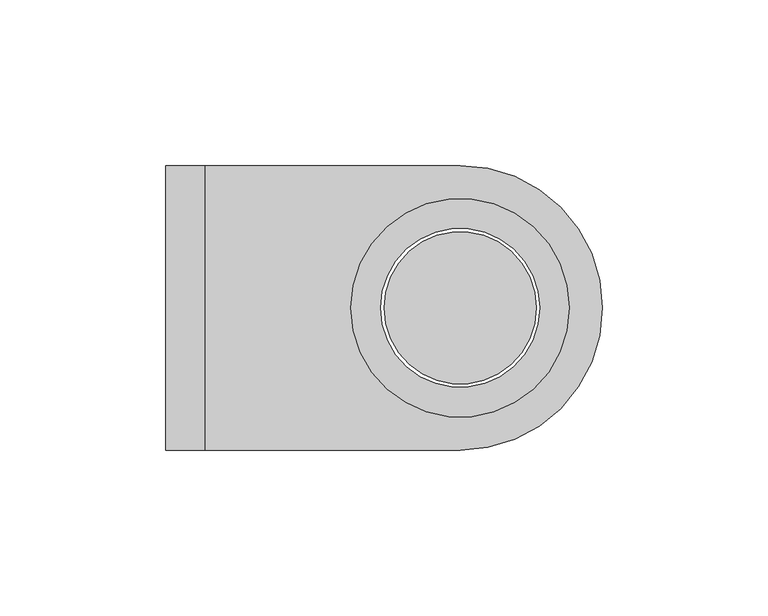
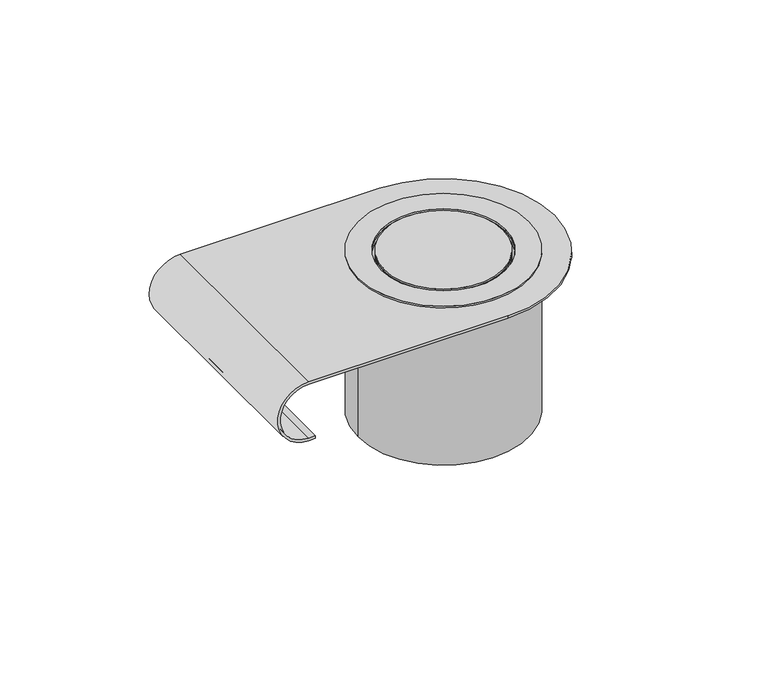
"""IFC4 building model written with IfcOpenShell, lengths in millimetres: flow terminal geometry, NLRS_74_PF_FB_bedieningspaneel solo sf knop steunbeugel_wisa : NLRS_74_PF_FB_bedieningspaneel solo sf knop steunbeugel_wisa."""

import ifcopenshell
import ifcopenshell.guid

model = None  # the IFC model being written
_history = None  # IfcOwnerHistory: only IFC2X3 demands one
_inside = {}  # id of a spatial element -> (the spatial element, [elements in it])
_under = {}  # id of a project, library or spatial element -> (it, [spatial elements below it])
_declared = {}  # id of a project -> (the project, [libraries it declares])
_typed = {}  # id of a type object -> (the type object, [elements of that type])
_made_of = {}  # id of a material, layer set ... -> (it, [elements and type objects made of it])


def new_model(schema):
    """Start an empty IFC model of exactly this schema.

    Asked for "IFC4X3", IfcOpenShell would pick the latest addendum, in which some entities
    have other attributes; the version numbers below select the first issue.
    IFC2X3 requires an IfcOwnerHistory on every rooted entity: one is made here for all.
    """
    global model, _history
    if schema == "IFC4X3":
        model = ifcopenshell.file(schema_version=(4, 3, 0, 0))
    else:
        model = ifcopenshell.file(schema=schema)
    _inside.clear()
    _under.clear()
    _declared.clear()
    _typed.clear()
    _made_of.clear()
    _history = None
    if model.schema == "IFC2X3":
        org = make("IfcOrganization", Name="unknown")
        user = make(
            "IfcPersonAndOrganization",
            ThePerson=make("IfcPerson", FamilyName="unknown"),
            TheOrganization=org,
        )
        app = make(
            "IfcApplication",
            ApplicationDeveloper=org,
            Version="unknown",
            ApplicationFullName="unknown",
            ApplicationIdentifier="unknown",
        )
        _history = make(
            "IfcOwnerHistory",
            OwningUser=user,
            OwningApplication=app,
            ChangeAction="ADDED",
            CreationDate=0,
        )
    return model


def make(cls, **values):
    """One entity of the class cls with the attributes given. An attribute that is None is left unset."""
    return model.create_entity(
        cls, **{name: value for name, value in values.items() if value is not None}
    )


def rooted(cls, **values):
    """An entity with a GlobalId (a new one), such as an element, a storey or a relation."""
    return make(cls, GlobalId=ifcopenshell.guid.new(), OwnerHistory=_history, **values)


def si_unit(unit_type, name, prefix=None):
    """IfcSIUnit, for example si_unit("LENGTHUNIT", "METRE", prefix="MILLI")."""
    return make("IfcSIUnit", UnitType=unit_type, Prefix=prefix, Name=name)


def assignment(units):
    """IfcUnitAssignment: the units of a project."""
    return None if units is None else make("IfcUnitAssignment", Units=units)


def point(xyz):
    """IfcCartesianPoint."""
    return None if xyz is None else make("IfcCartesianPoint", Coordinates=xyz)


def direction(xyz):
    """IfcDirection."""
    return None if xyz is None else make("IfcDirection", DirectionRatios=xyz)


def frame(location, z_axis=None, x_axis=None):
    """IfcAxis2Placement3D, a coordinate frame: its origin and axes. An axis left out is left unset."""
    return make(
        "IfcAxis2Placement3D",
        Location=point(location),
        Axis=direction(z_axis),
        RefDirection=direction(x_axis),
    )


def frame_2d(location, x_axis=None):
    """IfcAxis2Placement2D, a coordinate frame in the plane: its origin and x axis."""
    return make(
        "IfcAxis2Placement2D", Location=point(location), RefDirection=direction(x_axis)
    )


def origin():
    """The frame at (0, 0, 0) with its axes left unset."""
    return frame((0.0, 0.0, 0.0))


def origin_2d():
    """The frame at (0, 0) in the plane with its x axis left unset."""
    return frame_2d((0.0, 0.0))


def place(relative_to, where):
    """IfcLocalPlacement: puts the frame where relative to a parent placement (None: the world)."""
    return make(
        "IfcLocalPlacement", PlacementRelTo=relative_to, RelativePlacement=where
    )


def context(
    kind, dimensions, precision=None, world=None, true_north=None, identifier=None
):
    """IfcGeometricRepresentationContext, for example the 3D "Model" context."""
    return make(
        "IfcGeometricRepresentationContext",
        ContextIdentifier=identifier,
        ContextType=kind,
        CoordinateSpaceDimension=dimensions,
        Precision=precision,
        WorldCoordinateSystem=world,
        TrueNorth=true_north,
    )


def project(units=None, contexts=None):
    """IfcProject with its units and contexts."""
    return rooted(
        "IfcProject",
        Name="project",
        RepresentationContexts=contexts,
        UnitsInContext=assignment(units),
    )


def spatial(cls, under=None, at=None, **own):
    """A site, building, storey or space (cls), placed at a placement, below another one or the project."""
    s = rooted(cls, ObjectPlacement=at, **own)
    if under is not None:
        _under.setdefault(under.id(), (under, []))[1].append(s)
    return s


def polyline(points):
    """IfcPolyline through the points."""
    return make("IfcPolyline", Points=[point(p) for p in points])


def circle_curve(where, radius):
    """IfcCircle in the frame where."""
    return make("IfcCircle", Position=where, Radius=radius)


def trimmed(basis, trim1, trim2, sense, master):
    """IfcTrimmedCurve: the piece of a basis curve between two trims."""
    return make(
        "IfcTrimmedCurve",
        BasisCurve=basis,
        Trim1=trim1,
        Trim2=trim2,
        SenseAgreement=sense,
        MasterRepresentation=master,
    )


def segment(curve, same_sense, transition):
    """IfcCompositeCurveSegment."""
    return make(
        "IfcCompositeCurveSegment",
        Transition=transition,
        SameSense=same_sense,
        ParentCurve=curve,
    )


def composite_curve(segments, self_intersect=None):
    """IfcCompositeCurve: segments joined end to end."""
    return make("IfcCompositeCurve", Segments=segments, SelfIntersect=self_intersect)


def outline(outer, holes=None, kind="AREA"):
    """IfcArbitraryClosedProfileDef: a profile drawn as a closed curve; with holes, ...WithVoids."""
    if holes is None:
        return make("IfcArbitraryClosedProfileDef", ProfileType=kind, OuterCurve=outer)
    return make(
        "IfcArbitraryProfileDefWithVoids",
        ProfileType=kind,
        OuterCurve=outer,
        InnerCurves=holes,
    )


def extrude(swept, where, along, depth):
    """IfcExtrudedAreaSolid: the profile swept, set in the frame where, extruded along a direction by depth."""
    return make(
        "IfcExtrudedAreaSolid",
        SweptArea=swept,
        Position=where,
        ExtrudedDirection=direction(along),
        Depth=depth,
    )


def shape(context_of_items, identifier, shape_type, items):
    """IfcShapeRepresentation: the items that make up one representation, for example the "Body"."""
    return make(
        "IfcShapeRepresentation",
        ContextOfItems=context_of_items,
        RepresentationIdentifier=identifier,
        RepresentationType=shape_type,
        Items=items,
    )


def source(mapping_origin, context_of_items, identifier, shape_type, items):
    """IfcRepresentationMap: a shape defined once, which mapped items show again and again."""
    return make(
        "IfcRepresentationMap",
        MappingOrigin=mapping_origin,
        MappedRepresentation=shape(context_of_items, identifier, shape_type, items),
    )


def transform(
    local_origin,
    x_axis=None,
    y_axis=None,
    z_axis=None,
    scale=None,
    scale2=None,
    scale3=None,
    uniform=True,
):
    """IfcCartesianTransformationOperator3D, or its non-uniform kind. x_axis, y_axis, z_axis: its Axis1, 2, 3."""
    if uniform:
        return make(
            "IfcCartesianTransformationOperator3D",
            Axis1=direction(x_axis),
            Axis2=direction(y_axis),
            LocalOrigin=point(local_origin),
            Scale=scale,
            Axis3=direction(z_axis),
        )
    return make(
        "IfcCartesianTransformationOperator3DnonUniform",
        Axis1=direction(x_axis),
        Axis2=direction(y_axis),
        LocalOrigin=point(local_origin),
        Scale=scale,
        Axis3=direction(z_axis),
        Scale2=scale2,
        Scale3=scale3,
    )


def mapped(mapping_source, mapping_target):
    """IfcMappedItem: shows the shape of a source again, moved by a transform."""
    return make(
        "IfcMappedItem", MappingSource=mapping_source, MappingTarget=mapping_target
    )


def made_of(thing, what):
    """Note that an element or type object is made of a material, layer set ...; save() writes the relation."""
    if what is not None:
        _made_of.setdefault(what.id(), (what, []))[1].append(thing)
    return thing


def element(
    cls,
    number,
    at=None,
    inside=None,
    cuts=None,
    type_object=None,
    material=None,
    context=None,
    identifier="Body",
    shape_type=None,
    held_by="IfcProductDefinitionShape",
    body=None,
    shapes=None,
    **own,
):
    """One element of the class cls, such as IfcWall. Its Tag is "e" and its number.

    at: its placement. inside: the storey or other place that contains it. cuts: it is an
    opening in that element (IfcRelVoidsElement). A single representation is given by context,
    identifier, shape_type and body (its items); several are given by shapes. held_by: the class
    of the entity that holds the representations. save() writes the other relations.
    """
    e = rooted(cls, Tag="e%d" % number, ObjectPlacement=at, **own)
    if body is not None:
        shapes = [shape(context, identifier, shape_type, body)]
    if shapes is not None:
        e.Representation = make(held_by, Representations=shapes)
    if inside is not None:
        _inside.setdefault(inside.id(), (inside, []))[1].append(e)
    if cuts is not None:
        rooted(
            "IfcRelVoidsElement", RelatingBuildingElement=cuts, RelatedOpeningElement=e
        )
    if type_object is not None:
        _typed.setdefault(type_object.id(), (type_object, []))[1].append(e)
    return made_of(e, material)


def aggregate(whole, parts):
    """IfcRelAggregates: a whole, such as a stair, and the parts it consists of."""
    return rooted("IfcRelAggregates", RelatingObject=whole, RelatedObjects=parts)


def save(model, path):
    """Write the relations noted so far, then the file.

    IfcRelAggregates (storeys below a building ...), IfcRelContainedInSpatialStructure (elements
    in a storey), IfcRelDefinesByType, IfcRelAssociatesMaterial and IfcRelDeclares: one each for
    every whole, place, type object, material and project.
    """
    for whole, parts in _under.values():
        aggregate(whole, parts)
    for where, things in _inside.values():
        rooted(
            "IfcRelContainedInSpatialStructure",
            RelatedElements=things,
            RelatingStructure=where,
        )
    for kind, things in _typed.values():
        rooted("IfcRelDefinesByType", RelatedObjects=things, RelatingType=kind)
    for what, things in _made_of.values():
        rooted("IfcRelAssociatesMaterial", RelatedObjects=things, RelatingMaterial=what)
    for by, libraries in _declared.values():
        rooted("IfcRelDeclares", RelatingContext=by, RelatedDefinitions=libraries)
    model.write(path)


def plane_surface(at):
    """IfcPlane: the flat surface through the origin of the frame at, square to its z axis."""
    return make("IfcPlane", Position=at)


def cylinder_surface(at, radius):
    """IfcCylindricalSurface: all points at the distance radius from the z axis of the frame at."""
    return make("IfcCylindricalSurface", Position=at, Radius=radius)


def revolved_surface(curve, axis_point, axis_direction):
    """IfcSurfaceOfRevolution: the curve turned about the line through axis_point along axis_direction."""
    return make(
        "IfcSurfaceOfRevolution",
        SweptCurve=make("IfcArbitraryOpenProfileDef", ProfileType="CURVE", Curve=curve),
        AxisPosition=make("IfcAxis1Placement", Location=point(axis_point), Axis=direction(axis_direction)),
    )


def advanced_brep(points, edges, surfaces, faces):
    """IfcAdvancedBrep: a solid bounded by faces that lie on surfaces and meet in shared edges.

    An edge is (start, end): straight between two places in points (the first is 0);
    or (start, end, curve); or (start, end, curve, False) where it runs against its curve.
    A face is (place in surfaces, loops), or (place, loops, False) where it looks against
    its surface's normal. A loop lists edges by number (the first is 1), with a minus sign
    where the edge is run from its end to its start. The first loop is the outer one.
    """
    corners = [point(p) for p in points]
    vertices = [make("IfcVertexPoint", VertexGeometry=c) for c in corners]
    made = []
    for start, end, *more in edges:
        made.append(
            make(
                "IfcEdgeCurve",
                EdgeStart=vertices[start],
                EdgeEnd=vertices[end],
                EdgeGeometry=more[0] if more else make("IfcPolyline", Points=[corners[start], corners[end]]),
                SameSense=more[1] if len(more) > 1 else True,
            )
        )
    hull = []
    for where, loops, *sense in faces:
        bounds = []
        for j, loop in enumerate(loops):
            ring = [make("IfcOrientedEdge", EdgeElement=made[abs(k) - 1], Orientation=k > 0) for k in loop]
            bounds.append(
                make(
                    "IfcFaceOuterBound" if j == 0 else "IfcFaceBound",
                    Bound=make("IfcEdgeLoop", EdgeList=ring),
                    Orientation=True,
                )
            )
        hull.append(make("IfcAdvancedFace", Bounds=bounds, FaceSurface=surfaces[where], SameSense=sense[0] if sense else True))
    return make("IfcAdvancedBrep", Outer=make("IfcClosedShell", CfsFaces=hull))


def flow_terminal_5350e6d8(model_context):
    return source(origin(), model_context, "Body", "SolidModel", [
        advanced_brep(
        [(-77.0, -43.0, 12.0), (-77.0, -43.0, -12.0), (-74.4266483, -43.0, -12.0), (-74.4266483, -43.0, -11.0), (-77.0, -43.0, -11.0), (-77.0, -43.0, 11.0), (0.0, -43.0, 11.0), (0.0, -43.0, 12.0), (-77.0, 43.0, 11.0), (-77.0, 43.0, -11.0), (-74.4266483, 43.0, -11.0), (-74.4266483, 43.0, -12.0), (-77.0, 43.0, -12.0), (-77.0, 43.0, 12.0), (0.0, 43.0, 12.0), (0.0, 43.0, 11.0), (43.0, 0.0, 12.0), (24.0, 0.0, 12.0), (-24.0, 0.0, 12.0), (43.0, 0.0, 11.0), (-24.0, 0.0, 11.0), (24.0, 0.0, 11.0)],
        [
            (0, 1, circle_curve(frame((-77.0, -43.0, 0.0), z_axis=(0.0, -1.0, 0.0), x_axis=(1.0, 0.0, 0.0)), 12.0)),
            (1, 2),
            (2, 3),
            (3, 4),
            (4, 5, circle_curve(frame((-77.0, -43.0, 0.0), z_axis=(0.0, 1.0, 0.0), x_axis=(1.0, 0.0, 0.0)), 11.0)),
            (5, 6),
            (6, 7),
            (7, 0),
            (8, 9, circle_curve(frame((-77.0, 43.0, 0.0), z_axis=(0.0, -1.0, 0.0), x_axis=(1.0, 0.0, 0.0)), 11.0)),
            (9, 10),
            (10, 11),
            (11, 12),
            (12, 13, circle_curve(frame((-77.0, 43.0, 0.0), z_axis=(0.0, 1.0, 0.0), x_axis=(1.0, 0.0, 0.0)), 12.0)),
            (13, 14),
            (14, 15),
            (15, 8),
            (13, 0),
            (7, 16, circle_curve(frame((0.0, 0.0, 12.0), z_axis=(0.0, 0.0, 1.0), x_axis=(1.0, 0.0, 0.0)), 43.0)),
            (16, 14, circle_curve(frame((0.0, 0.0, 12.0), z_axis=(0.0, 0.0, 1.0), x_axis=(1.0, 0.0, 0.0)), 43.0)),
            (17, 18, circle_curve(frame((0.0, 0.0, 12.0), z_axis=(0.0, 0.0, -1.0), x_axis=(1.0, 0.0, 0.0)), 24.0)),
            (18, 17, circle_curve(frame((0.0, 0.0, 12.0), z_axis=(0.0, 0.0, -1.0), x_axis=(1.0, 0.0, 0.0)), 24.0)),
            (12, 1),
            (11, 2),
            (10, 3),
            (9, 4),
            (8, 5),
            (15, 19, circle_curve(frame((0.0, 0.0, 11.0), z_axis=(0.0, 0.0, -1.0), x_axis=(1.0, 0.0, 0.0)), 43.0)),
            (19, 6, circle_curve(frame((0.0, 0.0, 11.0), z_axis=(0.0, 0.0, -1.0), x_axis=(1.0, 0.0, 0.0)), 43.0)),
            (20, 21, circle_curve(frame((0.0, 0.0, 11.0), z_axis=(0.0, 0.0, 1.0), x_axis=(1.0, 0.0, 0.0)), 24.0)),
            (21, 20, circle_curve(frame((0.0, 0.0, 11.0), z_axis=(0.0, 0.0, 1.0), x_axis=(1.0, 0.0, 0.0)), 24.0)),
            (17, 21),
            (20, 18),
        ],
        [
            plane_surface(frame((43.0, -43.0, 12.0), z_axis=(0.0, -1.0, 0.0), x_axis=(-1.0, 0.0, 0.0))),
            plane_surface(frame((43.0, 43.0, 12.0), z_axis=(0.0, 1.0, 0.0), x_axis=(1.0, 0.0, 0.0))),
            plane_surface(frame((43.0, -43.0, 12.0), z_axis=(0.0, 0.0, 1.0), x_axis=(0.0, 1.0, 0.0))),
            cylinder_surface(frame((-77.0, 43.0, 0.0), z_axis=(0.0, -1.0, 0.0), x_axis=(1.0, 0.0, 0.0)), 12.0),
            plane_surface(frame((-77.0, -43.0, -12.0), z_axis=(0.0, 0.0, -1.0), x_axis=(0.0, 1.0, 0.0))),
            plane_surface(frame((-74.4266483, -43.0, -12.0), z_axis=(1.0, 0.0, 0.0), x_axis=(0.0, 1.0, 0.0))),
            plane_surface(frame((-74.4266483, -43.0, -11.0), z_axis=(0.0, 0.0, 1.0), x_axis=(0.0, 1.0, 0.0))),
            revolved_surface(polyline([(-66.0, 43.0, 0.0), (-66.0, -43.0, 0.0)]), (-77.0, 43.0, 0.0), (0.0, 1.0, 0.0)),
            plane_surface(frame((-77.0, -43.0, 11.0), z_axis=(0.0, 0.0, -1.0), x_axis=(0.0, 1.0, 0.0))),
            cylinder_surface(frame((0.0, 0.0, 55.0), z_axis=(0.0, 0.0, 1.0), x_axis=(1.0, 0.0, 0.0)), 43.0),
            revolved_surface(polyline([(24.0, 0.0, 11.0), (24.0, 0.0, 12.0)]), (0.0, 0.0, 12.0), (0.0, 0.0, -1.0)),
        ],
        [
            (0, [[1, 2, 3, 4, 5, 6, 7, 8]]),
            (1, [[9, 10, 11, 12, 13, 14, 15, 16]]),
            (2, [[17, -8, 18, 19, -14], [20, 21]]),
            (3, [[-1, -17, -13, 22]]),
            (4, [[-2, -22, -12, 23]]),
            (5, [[-3, -23, -11, 24]]),
            (6, [[-4, -24, -10, 25]]),
            (7, [[-5, -25, -9, 26]]),
            (8, [[-26, -16, 27, 28, -6], [29, 30]]),
            (9, [[-7, -28, -27, -15, -19, -18]]),
            (10, [[31, -29, 32, -20]]),
            (10, [[-31, -21, -32, -30]]),
        ],
    ),
        advanced_brep(
        [(23.0, 0.0, 12.0), (-23.0, 0.0, 12.0), (-23.0, 0.0, 11.0), (23.0, 0.0, 11.0)],
        [
            (0, 1, circle_curve(frame((0.0, 0.0, 12.0), z_axis=(0.0, 0.0, 1.0), x_axis=(1.0, 0.0, 0.0)), 23.0)),
            (1, 0, circle_curve(frame((0.0, 0.0, 12.0), z_axis=(0.0, 0.0, 1.0), x_axis=(1.0, 0.0, 0.0)), 23.0)),
            (2, 3, circle_curve(frame((0.0, 0.0, 11.0), z_axis=(0.0, 0.0, -1.0), x_axis=(1.0, 0.0, 0.0)), 23.0)),
            (3, 2, circle_curve(frame((0.0, 0.0, 11.0), z_axis=(0.0, 0.0, -1.0), x_axis=(1.0, 0.0, 0.0)), 23.0)),
            (0, 3),
            (2, 1),
        ],
        [
            plane_surface(frame((43.0, -43.0, 12.0), z_axis=(0.0, 0.0, 1.0), x_axis=(0.0, 1.0, 0.0))),
            plane_surface(frame((-77.0, -43.0, 11.0), z_axis=(0.0, 0.0, -1.0), x_axis=(0.0, 1.0, 0.0))),
            cylinder_surface(frame((0.0, 0.0, 12.0), z_axis=(0.0, 0.0, 1.0), x_axis=(1.0, 0.0, 0.0)), 23.0),
        ],
        [
            (0, [[1, 2]]),
            (1, [[3, 4]]),
            (2, [[5, -3, 6, -1]]),
            (2, [[-5, -2, -6, -4]]),
        ],
    ),
        extrude(outline(composite_curve([segment(trimmed(circle_curve(origin_2d(), 23.0), [point((-23.0, 0.0))], [point((23.0, 0.0))], False, "CARTESIAN"), True, "CONTINUOUS"), segment(trimmed(circle_curve(origin_2d(), 23.0), [point((23.0, 0.0))], [point((-23.0, 0.0))], False, "CARTESIAN"), True, "CONTINUOUS")], self_intersect=False)), frame((0.0, 0.0, -52.0), z_axis=(0.0, 0.0, 1.0), x_axis=(1.0, 0.0, 0.0)), (0.0, 0.0, 1.0), 65.0),
        extrude(outline(composite_curve([segment(trimmed(circle_curve(origin_2d(), 33.0), [point((-33.0, 0.0))], [point((33.0, 0.0))], False, "CARTESIAN"), True, "CONTINUOUS"), segment(trimmed(circle_curve(origin_2d(), 33.0), [point((33.0, 0.0))], [point((-33.0, 0.0))], False, "CARTESIAN"), True, "CONTINUOUS")], self_intersect=False), holes=[composite_curve([segment(trimmed(circle_curve(origin_2d(), 24.0), [point((-24.0, 0.0))], [point((24.0, 0.0))], True, "CARTESIAN"), True, "CONTINUOUS"), segment(trimmed(circle_curve(origin_2d(), 24.0), [point((24.0, 0.0))], [point((-24.0, 0.0))], True, "CARTESIAN"), True, "CONTINUOUS")], self_intersect=False)]), frame((0.0, 0.0, -52.0), z_axis=(0.0, 0.0, 1.0), x_axis=(1.0, 0.0, 0.0)), (0.0, 0.0, 1.0), 65.0),
    ])


if __name__ == "__main__":
    model = new_model("IFC4")
    model_context = context("Model", 3, world=origin())
    ifc_project = project(units=[si_unit("LENGTHUNIT", "METRE", prefix="MILLI")], contexts=[model_context])
    site = spatial("IfcSite", under=ifc_project)
    building = spatial("IfcBuilding", under=site)
    placement = place(None, origin())
    flow_terminal_shape = flow_terminal_5350e6d8(model_context)
    element("IfcFlowTerminal", 1, ObjectType="NLRS_74_PF_FB_bedieningspaneel solo sf knop steunbeugel_wisa : NLRS_74_PF_FB_bedieningspaneel solo sf knop steunbeugel_wisa", at=placement, inside=building, context=model_context, shape_type="MappedRepresentation", body=[
        mapped(flow_terminal_shape, transform((0.0, 0.0, 0.0), x_axis=(1.0, 0.0, 0.0), y_axis=(0.0, 1.0, 0.0), z_axis=(0.0, 0.0, 1.0))),
    ])
    save(model, "model.ifc")
